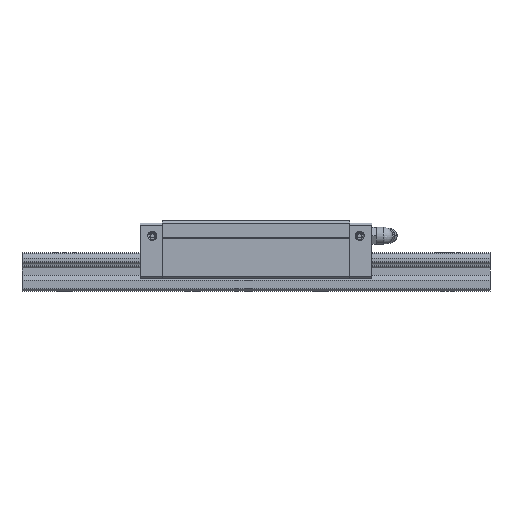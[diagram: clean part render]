
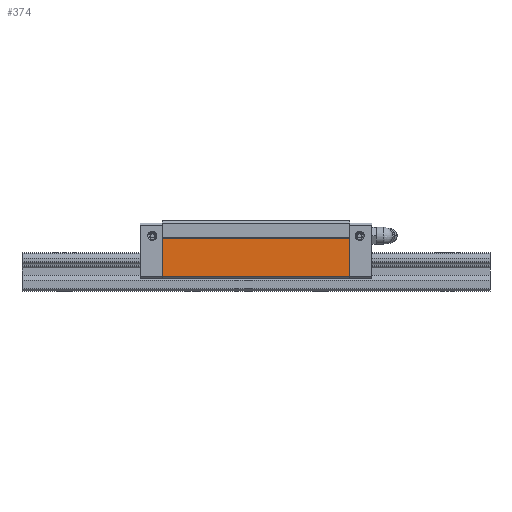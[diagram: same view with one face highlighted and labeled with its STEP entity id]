
A CAD part, left-side view. The second image highlights one B-rep face of the part: STEP entity #374.
In plain terms, the highlighted planar face has unit normal (-1, 0, 0).
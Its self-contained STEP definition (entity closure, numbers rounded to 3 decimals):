
#374=ADVANCED_FACE('',(#824),#825,.F.);
#824=FACE_OUTER_BOUND('',#1360,.T.);
#825=PLANE('',#1361);
#1360=EDGE_LOOP('',(#3052,#3053,#3054,#3055));
#1361=AXIS2_PLACEMENT_3D('',#3056,#3057,#3058);
#3052=ORIENTED_EDGE('',*,*,#3858,.T.);
#3053=ORIENTED_EDGE('',*,*,#3852,.T.);
#3054=ORIENTED_EDGE('',*,*,#3818,.F.);
#3055=ORIENTED_EDGE('',*,*,#3848,.F.);
#3056=CARTESIAN_POINT('',(-23.8,-8.5,24.8));
#3057=DIRECTION('',(1.0,0.,0.));
#3058=DIRECTION('',(0.,1.0,0.));
#3818=EDGE_CURVE('',#5036,#5037,#5038,.T.);
#3848=EDGE_CURVE('',#5074,#5036,#5076,.T.);
#3852=EDGE_CURVE('',#5080,#5037,#5081,.T.);
#3858=EDGE_CURVE('',#5074,#5080,#5088,.T.);
#5036=VERTEX_POINT('',#6785);
#5037=VERTEX_POINT('',#6786);
#5038=LINE('',#6787,#6788);
#5074=VERTEX_POINT('',#6847);
#5076=LINE('',#6850,#6851);
#5080=VERTEX_POINT('',#6858);
#5081=LINE('',#6859,#6860);
#5088=LINE('',#6872,#6873);
#6785=CARTESIAN_POINT('',(-23.8,-8.5,6.8));
#6786=CARTESIAN_POINT('',(-23.8,79.5,6.8));
#6787=CARTESIAN_POINT('',(-23.8,-8.5,6.8));
#6788=VECTOR('',#8043,1000.0);
#6847=CARTESIAN_POINT('',(-23.8,-8.5,24.8));
#6850=CARTESIAN_POINT('',(-23.8,-8.5,24.8));
#6851=VECTOR('',#8083,1000.0);
#6858=CARTESIAN_POINT('',(-23.8,79.5,24.8));
#6859=CARTESIAN_POINT('',(-23.8,79.5,24.8));
#6860=VECTOR('',#8087,1000.0);
#6872=CARTESIAN_POINT('',(-23.8,-8.5,24.8));
#6873=VECTOR('',#8093,1000.0);
#8043=DIRECTION('',(0.,1.0,0.));
#8083=DIRECTION('',(0.,0.,-1.0));
#8087=DIRECTION('',(0.,0.,-1.0));
#8093=DIRECTION('',(0.,1.0,0.));
